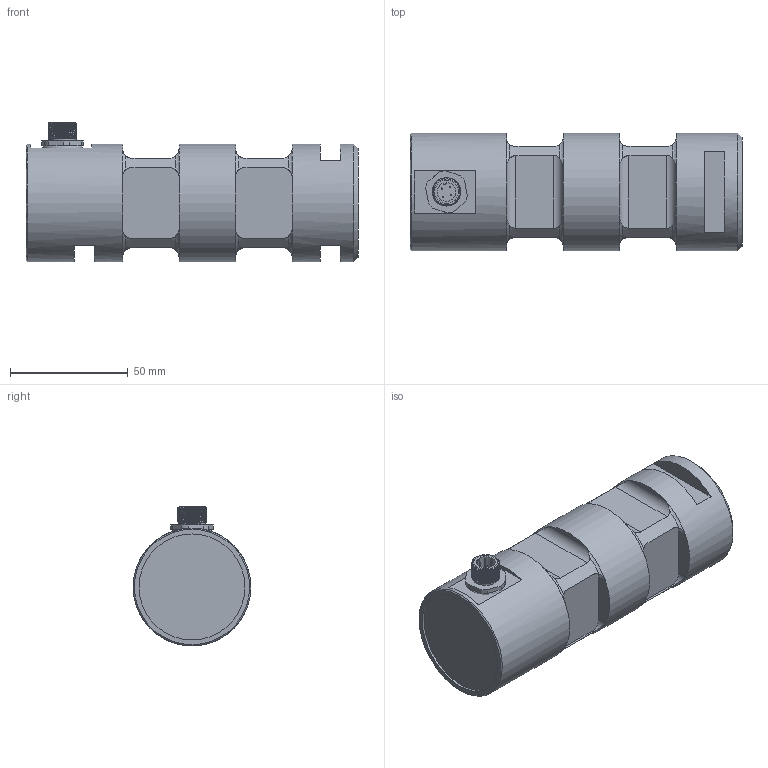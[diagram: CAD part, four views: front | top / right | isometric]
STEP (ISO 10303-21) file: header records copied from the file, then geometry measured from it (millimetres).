
FILE_DESCRIPTION(/* description */ ('Alibre Inc.'),/* implementation_level */ '2;1');
FILE_NAME(/* name */ 'export0',/* time_stamp */ '2016-01-11T15:24:30+01:00',/* author */ (''),/* organization */ (''),/* preprocessor_version */ 'ST-DEVELOPER v14',/* originating_system */ 'Alibre',/* authorisation */ '');
FILE_SCHEMA (('CONFIG_CONTROL_DESIGN'));
Length unit declared in the file: centimetre
Products named in the file (6): ID_1; ID_2; ID_3; ID_4
Bounding box: 141 x 50 x 59.32 mm (x, y, z)
Volume: 243759.2 mm3; surface area: 32089.4 mm2
Topology: 8 solids, 8 shells, 204 faces, 468 edges, 287 vertices
Faces by surface type: plane 88, cylinder 70, bspline 23, torus 17, cone 6
Full cylindrical faces by diameter (mm): 0.5 x8, 8 x2, 10 x3, 11.5 x1, 13 x1, 14.376 x1, 45 x1, 50 x3
Entity records: 18725 total; most frequent: CARTESIAN_POINT 14459, ORIENTED_EDGE 858, DIRECTION 526, EDGE_CURVE 424, VERTEX_POINT 273, FACE_BOUND 248, EDGE_LOOP 247, AXIS2_PLACEMENT_3D 232
